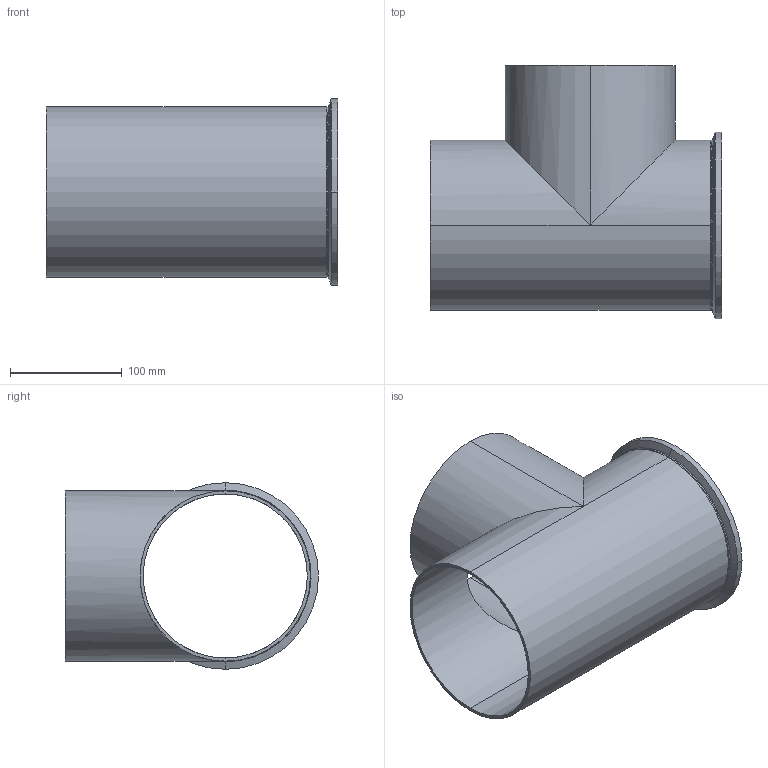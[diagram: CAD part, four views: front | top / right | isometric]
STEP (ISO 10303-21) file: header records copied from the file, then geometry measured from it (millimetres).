
FILE_DESCRIPTION (( 'STEP AP214' ), '1' );
FILE_NAME ('TE7WCSW6L6.0-...STEP', '2016-05-24T11:52:51', ( 'eran' ), ( '' ), 'SwSTEP 2.0', 'SolidWorks 2016', '' );
FILE_SCHEMA (( 'AUTOMOTIVE_DESIGN' ));
Length unit declared in the file: millimetre
Products named in the file (1): TE7WCSW6L6.0-..
Bounding box: 260.4 x 226.34 x 166.88 mm (x, y, z)
Volume: 425465.4 mm3; surface area: 302694.5 mm2
Topology: 2 solids, 2 shells, 38 faces, 94 edges, 60 vertices
Faces by surface type: cylinder 16, bspline 10, plane 6, cone 6
Entity records: 2284 total; most frequent: CARTESIAN_POINT 1333, DIRECTION 202, ORIENTED_EDGE 188, EDGE_CURVE 94, AXIS2_PLACEMENT_3D 89, VERTEX_POINT 60, CIRCLE 60, EDGE_LOOP 44
